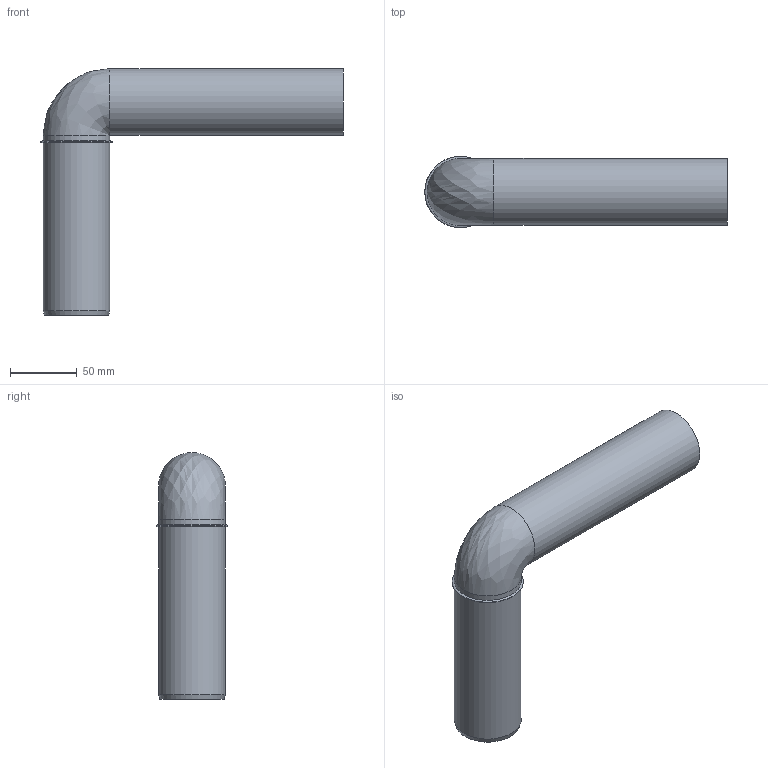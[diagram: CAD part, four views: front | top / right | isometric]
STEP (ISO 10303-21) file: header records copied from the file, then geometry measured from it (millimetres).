
FILE_DESCRIPTION(/* description */ (''),/* implementation_level */ '2;1');
FILE_NAME(/* name */ 'Z:\Geberit\Export\NewStep\390286.stp',/* time_stamp */ '2014-04-02T08:10:53+02:00',/* author */ ('ML'),/* organization */ (''),/* preprocessor_version */ 'ST-DEVELOPER v15.2',/* originating_system */ 'Autodesk Inventor 2014',/* authorisation */ '');
FILE_SCHEMA (('AUTOMOTIVE_DESIGN { 1 0 10303 214 3 1 1 }'));
Length unit declared in the file: millimetre
Products named in the file (2): 861477; 390286
Bounding box: 226.83 x 53.65 x 185.08 mm (x, y, z)
Volume: 105936.1 mm3; surface area: 106554.7 mm2
Topology: 1 solids, 1 shells, 13 faces, 27 edges, 14 vertices
Faces by surface type: cylinder 5, torus 4, plane 2, cone 1, bspline 1
Full cylindrical faces by diameter (mm): 46.15 x2, 50.15 x3
Entity records: 393 total; most frequent: CARTESIAN_POINT 121, DIRECTION 56, AXIS2_PLACEMENT_3D 28, ORIENTED_EDGE 26, EDGE_LOOP 25, FACE_BOUND 14, STYLED_ITEM 14, CIRCLE 13
